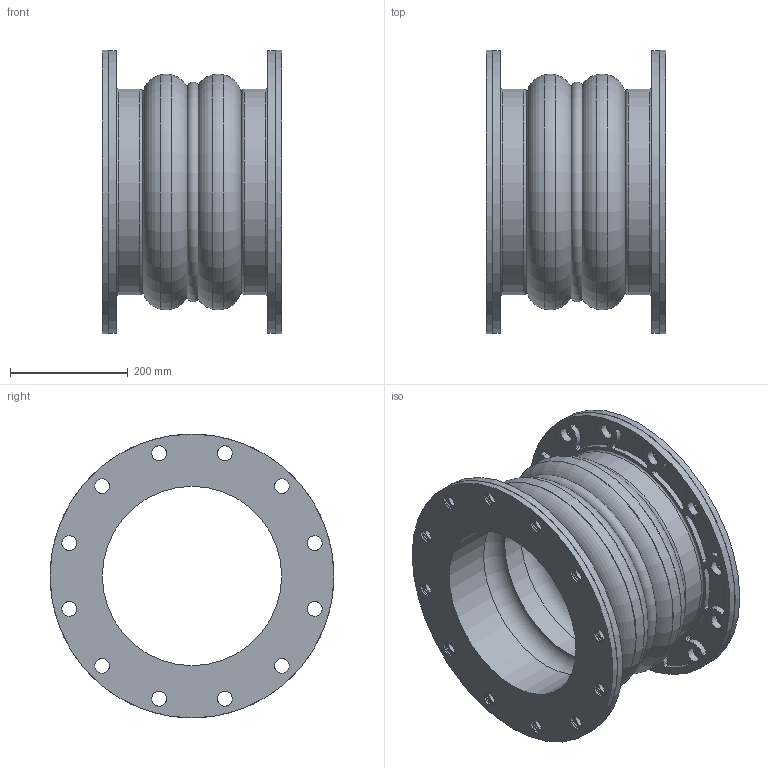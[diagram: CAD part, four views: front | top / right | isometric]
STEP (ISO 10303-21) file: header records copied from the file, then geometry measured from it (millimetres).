
FILE_DESCRIPTION((''),'2;1');
FILE_NAME('C:\2011_Work\Designs\Mercer\Stock Joints\450 Style\452\STEP\Style452 12x12.stp','2013-07-26T17:20:39',('mquog'),(''),'Autodesk Inventor 2011','Autodesk Inventor 2011','');
FILE_SCHEMA(('AUTOMOTIVE_DESIGN { 1 0 10303 214 1 1 1 1 }'));
Length unit declared in the file: inch
Products named in the file (4): Style452 12x12; 12DI450BUR150; 12_MBR; 452 12x12
Assembly tree (4 placements, depth 2):
  Style452 12x12
    12DI450BUR150  x2
    12_MBR
    452 12x12
Bounding box: 304.8 x 482.6 x 482.6 mm (x, y, z)
Volume: 11409586.1 mm3; surface area: 8330682 mm2
Topology: 36 solids, 36 shells, 708 faces, 1760 edges, 1146 vertices
Faces by surface type: cylinder 471, plane 140, torus 95, cone 2
Full cylindrical faces by diameter (mm): 25.4 x169, 304.8 x3, 311.15 x6, 317.5 x12, 321.564 x6, 325.628 x8, 328.803 x3, 331.788 x2, 336.55 x6, 476.25 x12, 482.6 x4
Entity records: 15268 total; most frequent: DIRECTION 2821, CARTESIAN_POINT 2329, ORIENTED_EDGE 1932, AXIS2_PLACEMENT_3D 1314, EDGE_LOOP 1233, EDGE_CURVE 966, VERTEX_POINT 821, CIRCLE 774
